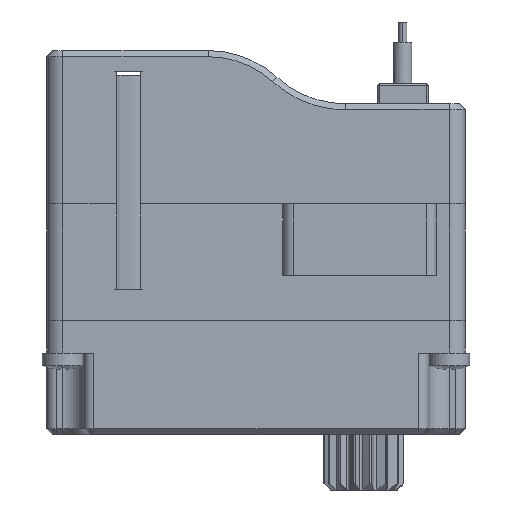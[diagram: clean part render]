
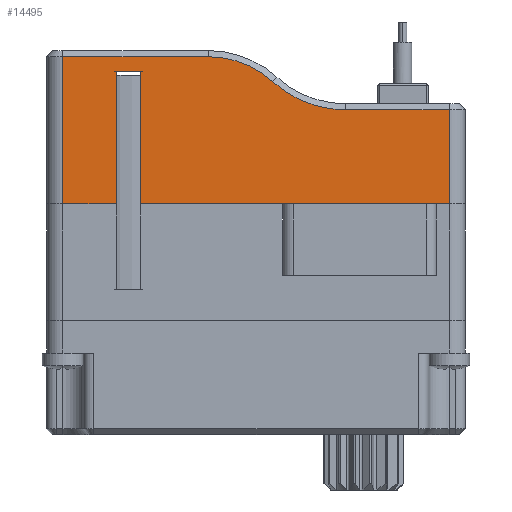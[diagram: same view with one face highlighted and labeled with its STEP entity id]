
A CAD part, front view. The second image highlights one B-rep face of the part: STEP entity #14495.
In plain terms, the highlighted planar face has unit normal (0, -1, 0).
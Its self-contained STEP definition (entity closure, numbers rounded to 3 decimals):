
#233 = VERTEX_POINT ( 'NONE', #7471 ) ;
#392 = DIRECTION ( 'NONE',  ( -1., 0., 0. ) ) ;
#491 = CARTESIAN_POINT ( 'NONE',  ( -117.424, -15.026, 10.7 ) ) ;
#608 = AXIS2_PLACEMENT_3D ( 'NONE', #5652, #854, #11868 ) ;
#692 = EDGE_CURVE ( 'NONE', #2021, #1793, #5988, .T. ) ;
#756 = DIRECTION ( 'NONE',  ( 0., 0., -1. ) ) ;
#774 = EDGE_CURVE ( 'NONE', #14614, #2414, #11539, .T. ) ;
#839 = CARTESIAN_POINT ( 'NONE',  ( -114.818, -15.026, 8.5 ) ) ;
#854 = DIRECTION ( 'NONE',  ( 0., 1., 0. ) ) ;
#869 = EDGE_CURVE ( 'NONE', #2812, #5081, #9219, .T. ) ;
#951 = LINE ( 'NONE', #11726, #14389 ) ;
#960 = EDGE_CURVE ( 'NONE', #2414, #233, #1377, .T. ) ;
#1053 = VECTOR ( 'NONE', #15595, 1000. ) ;
#1377 = LINE ( 'NONE', #3000, #13257 ) ;
#1428 = VERTEX_POINT ( 'NONE', #5324 ) ;
#1613 = CARTESIAN_POINT ( 'NONE',  ( -117.424, -15.026, 10.7 ) ) ;
#1668 = EDGE_CURVE ( 'NONE', #2812, #2021, #6870, .T. ) ;
#1793 = VERTEX_POINT ( 'NONE', #14993 ) ;
#1913 = ORIENTED_EDGE ( 'NONE', *, *, #1668, .T. ) ;
#2021 = VERTEX_POINT ( 'NONE', #10424 ) ;
#2170 = VECTOR ( 'NONE', #11610, 1000. ) ;
#2414 = VERTEX_POINT ( 'NONE', #1613 ) ;
#2812 = VERTEX_POINT ( 'NONE', #7245 ) ;
#3000 = CARTESIAN_POINT ( 'NONE',  ( -117.424, -15.026, 11. ) ) ;
#3117 = EDGE_CURVE ( 'NONE', #233, #10860, #11118, .T. ) ;
#3593 = CARTESIAN_POINT ( 'NONE',  ( -107.153, -15.026, 9.478 ) ) ;
#3926 = ORIENTED_EDGE ( 'NONE', *, *, #10724, .T. ) ;
#4203 = CARTESIAN_POINT ( 'NONE',  ( -113.38, -15.026, 10. ) ) ;
#4439 = CARTESIAN_POINT ( 'NONE',  ( -97.724, -15.026, 3.5 ) ) ;
#4510 = ORIENTED_EDGE ( 'NONE', *, *, #13399, .T. ) ;
#4825 = ORIENTED_EDGE ( 'NONE', *, *, #6984, .T. ) ;
#5081 = VERTEX_POINT ( 'NONE', #7034 ) ;
#5098 = ORIENTED_EDGE ( 'NONE', *, *, #960, .T. ) ;
#5324 = CARTESIAN_POINT ( 'NONE',  ( -98.524, -15.026, 8.1 ) ) ;
#5513 = DIRECTION ( 'NONE',  ( 1., 0., 0. ) ) ;
#5583 = VECTOR ( 'NONE', #392, 1000. ) ;
#5652 = CARTESIAN_POINT ( 'NONE',  ( -97.724, -15.026, 11. ) ) ;
#5710 = ORIENTED_EDGE ( 'NONE', *, *, #774, .T. ) ;
#5739 = VECTOR ( 'NONE', #5513, 1000. ) ;
#5988 = LINE ( 'NONE', #13574, #13483 ) ;
#6040 = FACE_OUTER_BOUND ( 'NONE', #6862, .T. ) ;
#6136 = DIRECTION ( 'NONE',  ( 1., 0., 0. ) ) ;
#6862 = EDGE_LOOP ( 'NONE', ( #9427, #10594, #3926, #4825, #5710, #5098, #15468, #4510, #7434, #1913, #15143 ) ) ;
#6870 = LINE ( 'NONE', #12079, #15536 ) ;
#6984 = EDGE_CURVE ( 'NONE', #10154, #14614, #12835, .T. ) ;
#7034 = CARTESIAN_POINT ( 'NONE',  ( -114.818, -15.026, 10. ) ) ;
#7245 = CARTESIAN_POINT ( 'NONE',  ( -113.63, -15.026, 10. ) ) ;
#7434 = ORIENTED_EDGE ( 'NONE', *, *, #869, .F. ) ;
#7471 = CARTESIAN_POINT ( 'NONE',  ( -117.424, -15.026, 3.5 ) ) ;
#8202 = CARTESIAN_POINT ( 'NONE',  ( -103.588, -15.026, 8.1 ) ) ;
#8373 = CARTESIAN_POINT ( 'NONE',  ( -110.314, -15.026, 10.7 ) ) ;
#8617 = EDGE_CURVE ( 'NONE', #1428, #13929, #14094, .T. ) ;
#8956 = DIRECTION ( 'NONE',  ( 0., 0., -1. ) ) ;
#9060 = CARTESIAN_POINT ( 'NONE',  ( -114.818, -15.026, 3.5 ) ) ;
#9219 = LINE ( 'NONE', #4203, #2170 ) ;
#9427 = ORIENTED_EDGE ( 'NONE', *, *, #10113, .T. ) ;
#9757 = DIRECTION ( 'NONE',  ( 0., 0., -1. ) ) ;
#10113 = EDGE_CURVE ( 'NONE', #1793, #1428, #951, .T. ) ;
#10154 = VERTEX_POINT ( 'NONE', #3593 ) ;
#10424 = CARTESIAN_POINT ( 'NONE',  ( -113.63, -15.026, 3.5 ) ) ;
#10594 = ORIENTED_EDGE ( 'NONE', *, *, #8617, .T. ) ;
#10684 = CIRCLE ( 'NONE', #11420, 5.3 ) ;
#10724 = EDGE_CURVE ( 'NONE', #13929, #10154, #10684, .T. ) ;
#10860 = VERTEX_POINT ( 'NONE', #9060 ) ;
#11118 = LINE ( 'NONE', #4439, #5739 ) ;
#11420 = AXIS2_PLACEMENT_3D ( 'NONE', #15906, #14627, #9757 ) ;
#11539 = LINE ( 'NONE', #491, #5583 ) ;
#11610 = DIRECTION ( 'NONE',  ( -1., 0., 0. ) ) ;
#11726 = CARTESIAN_POINT ( 'NONE',  ( -98.524, -15.026, 11. ) ) ;
#11868 = DIRECTION ( 'NONE',  ( 0., 0., -1. ) ) ;
#12078 = VECTOR ( 'NONE', #14403, 1000. ) ;
#12079 = CARTESIAN_POINT ( 'NONE',  ( -113.63, -15.026, 8.5 ) ) ;
#12469 = AXIS2_PLACEMENT_3D ( 'NONE', #15042, #14012, #8956 ) ;
#12835 = CIRCLE ( 'NONE', #12469, 4.7 ) ;
#13155 = DIRECTION ( 'NONE',  ( 0., 0., -1. ) ) ;
#13234 = LINE ( 'NONE', #839, #12078 ) ;
#13257 = VECTOR ( 'NONE', #756, 1000. ) ;
#13399 = EDGE_CURVE ( 'NONE', #10860, #5081, #13234, .T. ) ;
#13483 = VECTOR ( 'NONE', #6136, 1000. ) ;
#13574 = CARTESIAN_POINT ( 'NONE',  ( -97.724, -15.026, 3.5 ) ) ;
#13929 = VERTEX_POINT ( 'NONE', #14271 ) ;
#14012 = DIRECTION ( 'NONE',  ( 0., -1., 0. ) ) ;
#14094 = LINE ( 'NONE', #8202, #1053 ) ;
#14271 = CARTESIAN_POINT ( 'NONE',  ( -103.588, -15.026, 8.1 ) ) ;
#14327 = DIRECTION ( 'NONE',  ( 0., 0., 1. ) ) ;
#14389 = VECTOR ( 'NONE', #14327, 1000. ) ;
#14403 = DIRECTION ( 'NONE',  ( 0., 0., 1. ) ) ;
#14495 = ADVANCED_FACE ( 'NONE', ( #6040 ), #15485, .F. ) ;
#14614 = VERTEX_POINT ( 'NONE', #8373 ) ;
#14627 = DIRECTION ( 'NONE',  ( 0., 1., 0. ) ) ;
#14993 = CARTESIAN_POINT ( 'NONE',  ( -98.524, -15.026, 3.5 ) ) ;
#15042 = CARTESIAN_POINT ( 'NONE',  ( -110.314, -15.026, 6. ) ) ;
#15143 = ORIENTED_EDGE ( 'NONE', *, *, #692, .T. ) ;
#15468 = ORIENTED_EDGE ( 'NONE', *, *, #3117, .T. ) ;
#15485 = PLANE ( 'NONE',  #608 ) ;
#15536 = VECTOR ( 'NONE', #13155, 1000. ) ;
#15595 = DIRECTION ( 'NONE',  ( -1., 0., 0. ) ) ;
#15906 = CARTESIAN_POINT ( 'NONE',  ( -103.588, -15.026, 13.4 ) ) ;
